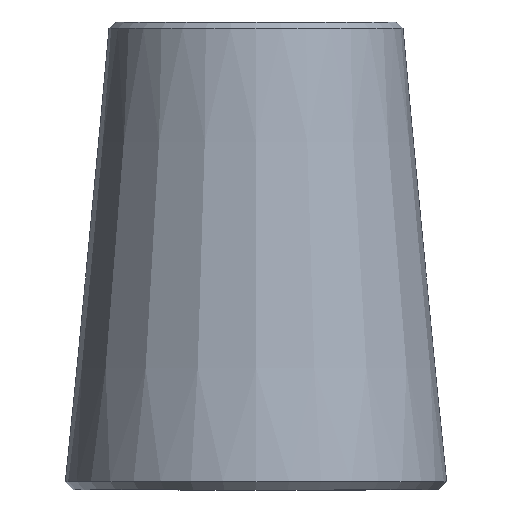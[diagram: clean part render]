
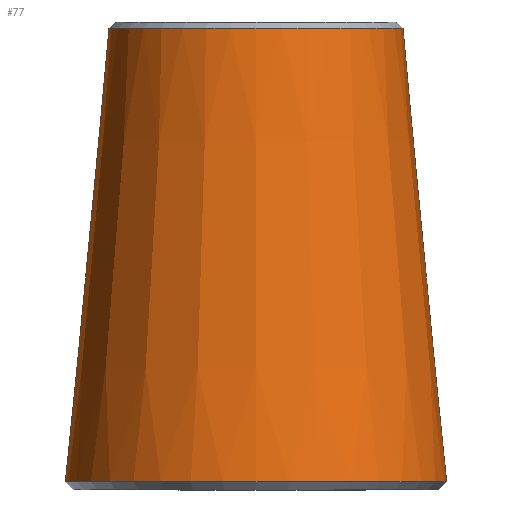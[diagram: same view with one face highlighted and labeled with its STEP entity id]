
A CAD part, front view. The second image highlights one B-rep face of the part: STEP entity #77.
In plain terms, the highlighted conical face has half-angle 5.5 degrees and reference radius 79.408 mm.
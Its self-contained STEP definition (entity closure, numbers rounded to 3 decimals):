
#20=FACE_BOUND('',#34,.T.);
#25=FACE_OUTER_BOUND('',#33,.T.);
#33=EDGE_LOOP('',(#63));
#34=EDGE_LOOP('',(#64));
#44=CIRCLE('',#87,89.617);
#45=CIRCLE('',#89,69.104);
#50=VERTEX_POINT('',#130);
#51=VERTEX_POINT('',#133);
#56=EDGE_CURVE('',#50,#50,#44,.T.);
#57=EDGE_CURVE('',#51,#51,#45,.T.);
#63=ORIENTED_EDGE('',*,*,#57,.F.);
#64=ORIENTED_EDGE('',*,*,#56,.F.);
#74=CONICAL_SURFACE('',#88,79.408,5.5);
#77=ADVANCED_FACE('',(#25,#20),#74,.T.);
#87=AXIS2_PLACEMENT_3D('',#131,#104,#105);
#88=AXIS2_PLACEMENT_3D('',#132,#106,#107);
#89=AXIS2_PLACEMENT_3D('',#134,#108,#109);
#104=DIRECTION('center_axis',(0.,0.,
-1.));
#105=DIRECTION('ref_axis',(0.,1.,0.));
#106=DIRECTION('center_axis',(0.,0.,-1.));
#107=DIRECTION('ref_axis',(0.,-1.,0.));
#108=DIRECTION('center_axis',(0.,0.,
1.));
#109=DIRECTION('ref_axis',(0.,1.,0.));
#130=CARTESIAN_POINT('',(0.,-89.617,3.982));
#131=CARTESIAN_POINT('Origin',(0.,0.,
3.982));
#132=CARTESIAN_POINT('Origin',(0.,0.,110.));
#133=CARTESIAN_POINT('',(0.,-69.104,217.014));
#134=CARTESIAN_POINT('Origin',(0.,0.,
217.014));
